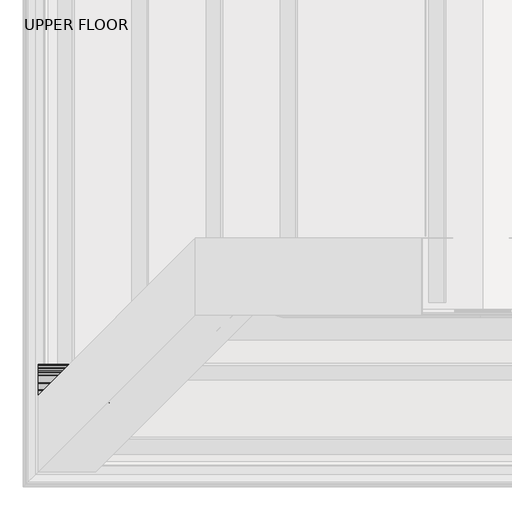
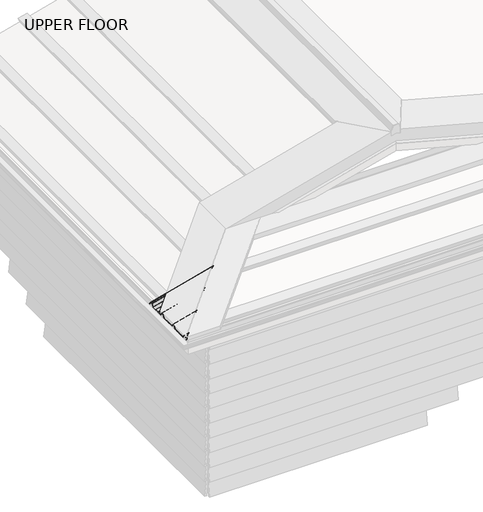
# One storey, part 2 of 8: 1 beam.
"""IFC4 building model written with IfcOpenShell, lengths in millimetres."""

from ifc_helpers import new_model, si_unit, frame, origin, place, context, project, spatial, polyline, ellipse_curve, element, save
from ifc_brep_helpers import plane_surface, cylinder_surface, revolved_surface, advanced_brep

model = new_model("IFC4")

# Units and contexts
model_context = context("Model", 3, world=origin())
ifc_project = project(units=[si_unit("LENGTHUNIT", "METRE", prefix="MILLI")], contexts=[model_context])

# Site, building, storey
site = spatial("IfcSite", under=ifc_project)
building = spatial("IfcBuilding", under=site)
storey = spatial("IfcBuildingStorey", under=building, Name="UPPER FLOOR", Elevation=2700.0)

# Beam
placement = place(None, origin())
element("IfcBeam", 1, ObjectType="3D_Metalcraft T-Rib : 3D_Metalcraft T-Rib", at=placement, inside=storey, context=model_context, shape_type="AdvancedBrep", body=[
    advanced_brep(
    [(-16365.5018007, -26637.8591199, 3290.1349919), (-16341.9197964, -26637.8591199, 3296.453771), (-16355.7286843, -26651.6680078, 3271.1807732), (-16365.5018007, -26651.6680078, 3268.5620746), (-16340.3443189, -26636.2836425, 3298.0943464), (-16365.5018007, -26636.2836425, 3291.3534195), (-16330.247122, -26626.1864455, 3302.484772), (-16365.5018007, -26626.1864455, 3293.0383093), (-16320.1499251, -26616.0892486, 3303.5054179), (-16365.5018007, -26616.0892486, 3291.3534195), (-16318.5744477, -26614.5137712, 3302.7091383), (-16365.5018007, -26614.5137712, 3290.1349919), (-16303.0681079, -26599.0074314, 3282.6392901), (-16365.5018007, -26599.0074314, 3265.9102325), (-16300.247122, -26596.1864455, 3281.5355147), (-16365.5018007, -26596.1864455, 3264.0505762), (-16258.0093834, -26553.9487069, 3292.8530827), (-16365.5018007, -26553.9487069, 3264.0505762), (-16253.8932332, -26549.8325567, 3295.7393867), (-16365.5018007, -26549.8325567, 3265.8339611), (-16216.6010109, -26512.5403344, 3305.7318075), (-16365.5018007, -26512.5403344, 3265.8339611), (-16212.4848607, -26508.4241842, 3305.0513418), (-16365.5018007, -26508.4241842, 3264.0505762), (-16170.247122, -26466.1864455, 3316.3689097), (-16365.5018007, -26466.1864455, 3264.0505762), (-16167.4261362, -26463.3654597, 3318.9844469), (-16365.5018007, -26463.3654597, 3265.9102325), (-16151.9197964, -26447.8591199, 3347.3641175), (-16365.5018007, -26447.8591199, 3290.1349919), (-16150.3443189, -26446.2836424, 3349.004693), (-16365.5018007, -26446.2836424, 3291.3534195), (-16140.247122, -26436.1864455, 3353.3951185), (-16365.5018007, -26436.1864455, 3293.0383093), (-16130.1499251, -26426.0892486, 3354.4157645), (-16365.5018007, -26426.0892486, 3291.3534195), (-16128.5744477, -26424.5137712, 3353.6194849), (-16365.5018007, -26424.5137712, 3290.1349919), (-16113.0681079, -26409.0074314, 3333.5496367), (-16365.5018007, -26409.0074314, 3265.9102325), (-16110.247122, -26406.1864455, 3332.4458613), (-16365.5018007, -26406.1864455, 3264.0505762), (-16068.0093834, -26363.9487069, 3343.7634292), (-16365.5018007, -26363.9487069, 3264.0505762), (-16063.8932331, -26359.8325567, 3346.6497332), (-16365.5018007, -26359.8325567, 3265.8339611), (-16026.6010109, -26322.5403344, 3356.6421541), (-16365.5018007, -26322.5403344, 3265.8339611), (-16022.4848607, -26318.4241842, 3355.9616883), (-16365.5018007, -26318.4241842, 3264.0505762), (-15980.247122, -26276.1864455, 3367.2792563), (-16365.5018007, -26276.1864455, 3264.0505762), (-15977.4261362, -26273.3654597, 3369.8947935), (-16365.5018007, -26273.3654597, 3265.9102325), (-15961.9197964, -26257.8591199, 3398.2744641), (-16365.5018007, -26257.8591199, 3290.1349919), (-15960.3443189, -26256.2836424, 3399.9150396), (-16365.5018007, -26256.2836424, 3291.3534195), (-15950.247122, -26246.1864455, 3404.3054651), (-16365.5018007, -26246.1864455, 3293.0383093), (-15940.1499251, -26236.0892486, 3405.3261111), (-16365.5018007, -26236.0892486, 3291.3534195), (-15938.5744477, -26234.5137712, 3404.5298314), (-16365.5018007, -26234.5137712, 3290.1349919), (-15923.0681079, -26219.0074314, 3384.4599833), (-16365.5018007, -26219.0074314, 3265.9102325), (-15920.247122, -26216.1864455, 3383.3562078), (-16365.5018007, -26216.1864455, 3264.0505762), (-15878.0093834, -26173.9487069, 3394.6737758), (-16365.5018007, -26173.9487069, 3264.0505762), (-15873.8932331, -26169.8325567, 3397.5600798), (-16365.5018007, -26169.8325567, 3265.8339611), (-15836.6010109, -26132.5403344, 3407.5525006), (-16365.5018007, -26132.5403344, 3265.8339611), (-15832.4848607, -26128.4241842, 3406.8720349), (-16365.5018007, -26128.4241842, 3264.0505762), (-15790.247122, -26086.1864455, 3418.1896028), (-16365.5018007, -26086.1864455, 3264.0505762), (-15787.4261362, -26083.3654597, 3420.80514), (-16365.5018007, -26083.3654597, 3265.9102325), (-15771.9197964, -26067.8591199, 3449.1848107), (-16365.5018007, -26067.8591199, 3290.1349919), (-15770.3443189, -26066.2836424, 3450.8253861), (-16365.5018007, -26066.2836424, 3291.3534195), (-15760.247122, -26056.1864455, 3455.2158116), (-16365.5018007, -26056.1864455, 3293.0383093), (-15750.1499251, -26046.0892486, 3456.2364576), (-16365.5018007, -26046.0892486, 3291.3534195), (-15748.5744477, -26044.5137712, 3455.440178), (-16365.5018007, -26044.5137712, 3290.1349919), (-15734.3934741, -26030.3327977, 3437.0857508), (-16365.5018007, -26030.3327977, 3267.9807843), (-15731.5724887, -26027.5118122, 3435.9819758), (-16365.5018007, -26027.5118122, 3266.1211286), (-15727.9238535, -26023.863177, 3436.9596247), (-16365.5018007, -26023.863177, 3266.1211286), (-15727.9238535, -26023.863177, 3437.9949008), (-16365.5018007, -26023.863177, 3267.1564048), (-15731.4774971, -26027.4168206, 3437.0427049), (-16365.5018007, -26027.4168206, 3267.1564048), (-15733.5685615, -26029.507885, 3437.8922113), (-16365.5018007, -26029.507885, 3268.5662102), (-15747.747122, -26043.6864455, 3456.2435153), (-16365.5018007, -26043.6864455, 3290.716648), (-15749.834592, -26045.7739155, 3457.3034089), (-16365.5018007, -26045.7739155, 3292.3358775), (-15760.247122, -26056.1864455, 3456.2510878), (-16365.5018007, -26056.1864455, 3294.0735855), (-15770.659652, -26066.5989755, 3451.7233509), (-16365.5018007, -26066.5989755, 3292.3358775), (-15772.747122, -26068.6864455, 3449.5447855), (-16365.5018007, -26068.6864455, 3290.716648), (-15788.1248128, -26084.0641363, 3421.4005681), (-16365.5018007, -26084.0641363, 3266.6928705), (-15790.3421137, -26086.2814372, 3419.1994261), (-16365.5018007, -26086.2814372, 3265.0858524), (-15832.2840478, -26128.2233713, 3407.9611187), (-16365.5018007, -26128.2233713, 3265.0858524), (-15836.4001981, -26132.3395216, 3408.6415844), (-16365.5018007, -26132.3395216, 3266.8692373), (-15874.094046, -26170.0333695, 3398.5415483), (-16365.5018007, -26170.0333695, 3266.8692373), (-15878.2101962, -26174.1495197, 3395.6552443), (-16365.5018007, -26174.1495197, 3265.0858524), (-15920.1521304, -26216.0914539, 3384.4169369), (-16365.5018007, -26216.0914539, 3265.0858524), (-15922.3694312, -26218.3087548, 3385.429831), (-16365.5018007, -26218.3087548, 3266.6928705), (-15937.747122, -26233.6864455, 3405.3331688), (-16365.5018007, -26233.6864455, 3290.716648), (-15939.834592, -26235.7739155, 3406.3930623), (-16365.5018007, -26235.7739155, 3292.3358775), (-15950.247122, -26246.1864455, 3405.3407413), (-16365.5018007, -26246.1864455, 3294.0735855), (-15960.659652, -26256.5989755, 3400.8130043), (-16365.5018007, -26256.5989755, 3292.3358775), (-15962.747122, -26258.6864455, 3398.6344389), (-16365.5018007, -26258.6864455, 3290.716648), (-15978.1248128, -26274.0641363, 3370.4902215), (-16365.5018007, -26274.0641363, 3266.6928705), (-15980.3421137, -26276.2814372, 3368.2890795), (-16365.5018007, -26276.2814372, 3265.0858524), (-16022.2840478, -26318.2233713, 3357.0507721), (-16365.5018007, -26318.2233713, 3265.0858524), (-16026.4001981, -26322.3395216, 3357.7312379), (-16365.5018007, -26322.3395216, 3266.8692373), (-16064.094046, -26360.0333695, 3347.6312018), (-16365.5018007, -26360.0333695, 3266.8692373), (-16068.2101962, -26364.1495197, 3344.7448978), (-16365.5018007, -26364.1495197, 3265.0858524), (-16110.1521304, -26406.0914539, 3333.5065904), (-16365.5018007, -26406.0914539, 3265.0858524), (-16112.3694312, -26408.3087548, 3334.5194844), (-16365.5018007, -26408.3087548, 3266.6928705), (-16127.747122, -26423.6864455, 3354.4228222), (-16365.5018007, -26423.6864455, 3290.716648), (-16129.834592, -26425.7739156, 3355.4827158), (-16365.5018007, -26425.7739156, 3292.3358775), (-16140.247122, -26436.1864455, 3354.4303947), (-16365.5018007, -26436.1864455, 3294.0735855), (-16150.659652, -26446.5989755, 3349.9026578), (-16365.5018007, -26446.5989755, 3292.3358775), (-16152.747122, -26448.6864455, 3347.7240924), (-16365.5018007, -26448.6864455, 3290.716648), (-16168.1248128, -26464.0641363, 3319.579875), (-16365.5018007, -26464.0641363, 3266.6928705), (-16170.3421137, -26466.2814372, 3317.378733), (-16365.5018007, -26466.2814372, 3265.0858524), (-16212.2840478, -26508.2233713, 3306.1404256), (-16365.5018007, -26508.2233713, 3265.0858524), (-16216.4001981, -26512.3395216, 3306.8208913), (-16365.5018007, -26512.3395216, 3266.8692373), (-16254.094046, -26550.0333695, 3296.7208552), (-16365.5018007, -26550.0333695, 3266.8692373), (-16258.2101962, -26554.1495197, 3293.8345512), (-16365.5018007, -26554.1495197, 3265.0858524), (-16300.1521304, -26596.0914539, 3282.5962438), (-16365.5018007, -26596.0914539, 3265.0858524), (-16302.3694312, -26598.3087548, 3283.6091379), (-16365.5018007, -26598.3087548, 3266.6928705), (-16317.747122, -26613.6864455, 3303.5124756), (-16365.5018007, -26613.6864455, 3290.716648), (-16319.834592, -26615.7739156, 3304.5723692), (-16365.5018007, -26615.7739156, 3292.3358775), (-16330.247122, -26626.1864455, 3303.5200482), (-16365.5018007, -26626.1864455, 3294.0735855), (-16340.659652, -26636.5989755, 3298.9923112), (-16365.5018007, -26636.5989755, 3292.3358775), (-16342.747122, -26638.6864455, 3296.8137458), (-16365.5018007, -26638.6864455, 3290.716648), (-16365.5018007, -26651.6680078, 3270.4362191), (-16355.7286843, -26651.6680078, 3273.0549178)],
    [
        (0, 1),
        (1, 2),
        (2, 3),
        (3, 0),
        (4, 1, ellipse_curve(frame((-16339.3541965, -26635.29352, 3295.286537), z_axis=(0.7071067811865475, -0.7071067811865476, 0.0), x_axis=(-0.6612248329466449, -0.6612248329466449, -0.35434932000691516)), 4.5814288, 3.1291741)),
        (0, 5, ellipse_curve(frame((-16365.5018007, -26635.29352, 3288.2803075), z_axis=(-1.0, 0.0, 0.0), x_axis=(0.0, 0.0, -1.0)), 3.2395594, 3.1291741)),
        (5, 4),
        (6, 4, ellipse_curve(frame((-16330.2530369, -26626.1923604, 3269.2512983), z_axis=(0.7071067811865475, -0.7071067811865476, 0.0), x_axis=(-0.6612248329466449, -0.6612248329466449, -0.35434932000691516)), 46.9969887, 32.0995402)),
        (5, 7, ellipse_curve(frame((-16365.5018007, -26626.1923604, 3259.8064205), z_axis=(-1.0, 0.0, 0.0), x_axis=(0.0, 0.0, -1.0)), 33.2318894, 32.0995402)),
        (7, 6),
        (8, 6, ellipse_curve(frame((-16330.2412071, -26626.1805307, 3269.254468), z_axis=(0.7071067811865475, -0.7071067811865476, 0.0), x_axis=(-0.6612248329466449, -0.6612248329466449, -0.35434932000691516)), 46.9969887, 32.0995402)),
        (7, 9, ellipse_curve(frame((-16365.5018007, -26626.1805307, 3259.8064205), z_axis=(-1.0, 0.0, 0.0), x_axis=(0.0, 0.0, -1.0)), 33.2318894, 32.0995402)),
        (9, 8),
        (10, 8, ellipse_curve(frame((-16321.1400476, -26617.0793711, 3300.1670035), z_axis=(0.7071067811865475, -0.7071067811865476, 0.0), x_axis=(-0.6612248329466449, -0.6612248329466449, -0.35434932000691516)), 4.5814288, 3.1291741)),
        (9, 11, ellipse_curve(frame((-16365.5018007, -26617.0793711, 3288.2803075), z_axis=(-1.0, 0.0, 0.0), x_axis=(0.0, 0.0, -1.0)), 3.2395594, 3.1291741)),
        (11, 10),
        (12, 10),
        (11, 13),
        (13, 12),
        (14, 12, ellipse_curve(frame((-16299.4668008, -26595.4061243, 3286.2363659), z_axis=(-0.7071067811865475, 0.7071067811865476, 0.0), x_axis=(-0.6612248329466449, -0.6612248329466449, -0.35434932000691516)), 6.4542341, 4.4083239)),
        (13, 15, ellipse_curve(frame((-16365.5018007, -26595.4061243, 3268.542341), z_axis=(1.0, 0.0, 0.0), x_axis=(0.0, 0.0, -1.0)), 4.5638327, 4.4083239)),
        (15, 14),
        (16, 14),
        (15, 17),
        (17, 16),
        (18, 16),
        (17, 19),
        (19, 18),
        (20, 18),
        (19, 21),
        (21, 20),
        (22, 20),
        (21, 23),
        (23, 22),
        (24, 22),
        (23, 25),
        (25, 24),
        (26, 24, ellipse_curve(frame((-16171.0274432, -26466.9667667, 3320.6515881), z_axis=(-0.7071067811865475, 0.7071067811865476, 0.0), x_axis=(-0.6612248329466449, -0.6612248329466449, -0.35434932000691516)), 6.4542341, 4.4083239)),
        (25, 27, ellipse_curve(frame((-16365.5018007, -26466.9667667, 3268.542341), z_axis=(1.0, 0.0, 0.0), x_axis=(0.0, 0.0, -1.0)), 4.5638327, 4.4083239)),
        (27, 26),
        (28, 26),
        (27, 29),
        (29, 28),
        (30, 28, ellipse_curve(frame((-16149.3541965, -26445.29352, 3346.1968835), z_axis=(0.7071067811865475, -0.7071067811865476, 0.0), x_axis=(-0.6612248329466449, -0.6612248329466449, -0.35434932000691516)), 4.5814288, 3.1291741)),
        (29, 31, ellipse_curve(frame((-16365.5018007, -26445.29352, 3288.2803075), z_axis=(-1.0, 0.0, 0.0), x_axis=(0.0, 0.0, -1.0)), 3.2395594, 3.1291741)),
        (31, 30),
        (32, 30, ellipse_curve(frame((-16140.2530369, -26436.1923604, 3320.1616448), z_axis=(0.7071067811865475, -0.7071067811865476, 0.0), x_axis=(-0.6612248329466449, -0.6612248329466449, -0.35434932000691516)), 46.9969887, 32.0995402)),
        (31, 33, ellipse_curve(frame((-16365.5018007, -26436.1923604, 3259.8064205), z_axis=(-1.0, 0.0, 0.0), x_axis=(0.0, 0.0, -1.0)), 33.2318894, 32.0995402)),
        (33, 32),
        (34, 32, ellipse_curve(frame((-16140.2412071, -26436.1805307, 3320.1648146), z_axis=(0.7071067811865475, -0.7071067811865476, 0.0), x_axis=(-0.6612248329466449, -0.6612248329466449, -0.35434932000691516)), 46.9969887, 32.0995402)),
        (33, 35, ellipse_curve(frame((-16365.5018007, -26436.1805307, 3259.8064205), z_axis=(-1.0, 0.0, 0.0), x_axis=(0.0, 0.0, -1.0)), 33.2318894, 32.0995402)),
        (35, 34),
        (36, 34, ellipse_curve(frame((-16131.1400476, -26427.0793711, 3351.07735), z_axis=(0.7071067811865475, -0.7071067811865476, 0.0), x_axis=(-0.6612248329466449, -0.6612248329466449, -0.35434932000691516)), 4.5814288, 3.1291741)),
        (35, 37, ellipse_curve(frame((-16365.5018007, -26427.0793711, 3288.2803075), z_axis=(-1.0, 0.0, 0.0), x_axis=(0.0, 0.0, -1.0)), 3.2395594, 3.1291741)),
        (37, 36),
        (38, 36),
        (37, 39),
        (39, 38),
        (40, 38, ellipse_curve(frame((-16109.4668008, -26405.4061243, 3337.1467125), z_axis=(-0.7071067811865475, 0.7071067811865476, 0.0), x_axis=(-0.6612248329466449, -0.6612248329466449, -0.35434932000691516)), 6.4542341, 4.4083239)),
        (39, 41, ellipse_curve(frame((-16365.5018007, -26405.4061243, 3268.542341), z_axis=(1.0, 0.0, 0.0), x_axis=(0.0, 0.0, -1.0)), 4.5638327, 4.4083239)),
        (41, 40),
        (42, 40),
        (41, 43),
        (43, 42),
        (44, 42),
        (43, 45),
        (45, 44),
        (46, 44),
        (45, 47),
        (47, 46),
        (48, 46),
        (47, 49),
        (49, 48),
        (50, 48),
        (49, 51),
        (51, 50),
        (52, 50, ellipse_curve(frame((-15981.0274432, -26276.9667667, 3371.5619346), z_axis=(-0.7071067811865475, 0.7071067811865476, 0.0), x_axis=(-0.6612248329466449, -0.6612248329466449, -0.35434932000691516)), 6.4542341, 4.4083239)),
        (51, 53, ellipse_curve(frame((-16365.5018007, -26276.9667667, 3268.542341), z_axis=(1.0, 0.0, 0.0), x_axis=(0.0, 0.0, -1.0)), 4.5638327, 4.4083239)),
        (53, 52),
        (54, 52),
        (53, 55),
        (55, 54),
        (56, 54, ellipse_curve(frame((-15959.3541965, -26255.29352, 3397.1072301), z_axis=(0.7071067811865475, -0.7071067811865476, 0.0), x_axis=(-0.6612248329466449, -0.6612248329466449, -0.35434932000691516)), 4.5814288, 3.1291741)),
        (55, 57, ellipse_curve(frame((-16365.5018007, -26255.29352, 3288.2803075), z_axis=(-1.0, 0.0, 0.0), x_axis=(0.0, 0.0, -1.0)), 3.2395594, 3.1291741)),
        (57, 56),
        (58, 56, ellipse_curve(frame((-15950.2530369, -26246.1923604, 3371.0719914), z_axis=(0.7071067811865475, -0.7071067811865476, 0.0), x_axis=(-0.6612248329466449, -0.6612248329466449, -0.35434932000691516)), 46.9969887, 32.0995402)),
        (57, 59, ellipse_curve(frame((-16365.5018007, -26246.1923604, 3259.8064205), z_axis=(-1.0, 0.0, 0.0), x_axis=(0.0, 0.0, -1.0)), 33.2318894, 32.0995402)),
        (59, 58),
        (60, 58, ellipse_curve(frame((-15950.2412071, -26246.1805306, 3371.0751612), z_axis=(0.7071067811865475, -0.7071067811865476, 0.0), x_axis=(-0.6612248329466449, -0.6612248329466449, -0.35434932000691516)), 46.9969887, 32.0995402)),
        (59, 61, ellipse_curve(frame((-16365.5018007, -26246.1805306, 3259.8064205), z_axis=(-1.0, 0.0, 0.0), x_axis=(0.0, 0.0, -1.0)), 33.2318894, 32.0995402)),
        (61, 60),
        (62, 60, ellipse_curve(frame((-15941.1400476, -26237.0793711, 3401.9876966), z_axis=(0.7071067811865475, -0.7071067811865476, 0.0), x_axis=(-0.6612248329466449, -0.6612248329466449, -0.35434932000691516)), 4.5814288, 3.1291741)),
        (61, 63, ellipse_curve(frame((-16365.5018007, -26237.0793711, 3288.2803075), z_axis=(-1.0, 0.0, 0.0), x_axis=(0.0, 0.0, -1.0)), 3.2395594, 3.1291741)),
        (63, 62),
        (64, 62),
        (63, 65),
        (65, 64),
        (66, 64, ellipse_curve(frame((-15919.4668008, -26215.4061243, 3388.057059), z_axis=(-0.7071067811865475, 0.7071067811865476, 0.0), x_axis=(-0.6612248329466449, -0.6612248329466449, -0.35434932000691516)), 6.4542341, 4.4083239)),
        (65, 67, ellipse_curve(frame((-16365.5018007, -26215.4061243, 3268.542341), z_axis=(1.0, 0.0, 0.0), x_axis=(0.0, 0.0, -1.0)), 4.5638327, 4.4083239)),
        (67, 66),
        (68, 66),
        (67, 69),
        (69, 68),
        (70, 68),
        (69, 71),
        (71, 70),
        (72, 70),
        (71, 73),
        (73, 72),
        (74, 72),
        (73, 75),
        (75, 74),
        (76, 74),
        (75, 77),
        (77, 76),
        (78, 76, ellipse_curve(frame((-15791.0274432, -26086.9667667, 3422.4722812), z_axis=(-0.7071067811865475, 0.7071067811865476, 0.0), x_axis=(-0.6612248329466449, -0.6612248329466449, -0.35434932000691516)), 6.4542341, 4.4083239)),
        (77, 79, ellipse_curve(frame((-16365.5018007, -26086.9667667, 3268.542341), z_axis=(1.0, 0.0, 0.0), x_axis=(0.0, 0.0, -1.0)), 4.5638327, 4.4083239)),
        (79, 78),
        (80, 78),
        (79, 81),
        (81, 80),
        (82, 80, ellipse_curve(frame((-15769.3541965, -26065.29352, 3448.0175767), z_axis=(0.7071067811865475, -0.7071067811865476, 0.0), x_axis=(-0.6612248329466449, -0.6612248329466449, -0.35434932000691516)), 4.5814288, 3.1291741)),
        (81, 83, ellipse_curve(frame((-16365.5018007, -26065.29352, 3288.2803075), z_axis=(-1.0, 0.0, 0.0), x_axis=(0.0, 0.0, -1.0)), 3.2395594, 3.1291741)),
        (83, 82),
        (84, 82, ellipse_curve(frame((-15760.2530369, -26056.1923604, 3421.982338), z_axis=(0.7071067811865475, -0.7071067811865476, 0.0), x_axis=(-0.6612248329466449, -0.6612248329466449, -0.35434932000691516)), 46.9969887, 32.0995402)),
        (83, 85, ellipse_curve(frame((-16365.5018007, -26056.1923604, 3259.8064205), z_axis=(-1.0, 0.0, 0.0), x_axis=(0.0, 0.0, -1.0)), 33.2318894, 32.0995402)),
        (85, 84),
        (86, 84, ellipse_curve(frame((-15760.2412071, -26056.1805306, 3421.9855077), z_axis=(0.7071067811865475, -0.7071067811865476, 0.0), x_axis=(-0.6612248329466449, -0.6612248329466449, -0.35434932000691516)), 46.9969887, 32.0995402)),
        (85, 87, ellipse_curve(frame((-16365.5018007, -26056.1805306, 3259.8064205), z_axis=(-1.0, 0.0, 0.0), x_axis=(0.0, 0.0, -1.0)), 33.2318894, 32.0995402)),
        (87, 86),
        (88, 86, ellipse_curve(frame((-15751.1400476, -26047.0793711, 3452.8980432), z_axis=(0.7071067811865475, -0.7071067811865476, 0.0), x_axis=(-0.6612248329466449, -0.6612248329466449, -0.35434932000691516)), 4.5814288, 3.1291741)),
        (87, 89, ellipse_curve(frame((-16365.5018007, -26047.0793711, 3288.2803075), z_axis=(-1.0, 0.0, 0.0), x_axis=(0.0, 0.0, -1.0)), 3.2395594, 3.1291741)),
        (89, 88),
        (90, 88),
        (89, 91),
        (91, 90),
        (92, 90, ellipse_curve(frame((-15730.7921675, -26026.731491, 3440.682827), z_axis=(-0.7071067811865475, 0.7071067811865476, 0.0), x_axis=(-0.6612248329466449, -0.6612248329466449, -0.35434932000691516)), 6.4542341, 4.4083239)),
        (91, 93, ellipse_curve(frame((-16365.5018007, -26026.731491, 3270.6128934), z_axis=(1.0, 0.0, 0.0), x_axis=(0.0, 0.0, -1.0)), 4.5638327, 4.4083239)),
        (93, 92),
        (94, 92),
        (93, 95),
        (95, 94),
        (96, 94, ellipse_curve(frame((-15727.9238535, -26023.863177, 3437.4772628), z_axis=(-0.7071067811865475, 0.7071067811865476, 0.0), x_axis=(-0.6612248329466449, -0.6612248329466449, -0.35434932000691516)), 0.7320508, 0.5)),
        (95, 97, ellipse_curve(frame((-16365.5018007, -26023.863177, 3266.6387667), z_axis=(1.0, 0.0, 0.0), x_axis=(0.0, 0.0, -1.0)), 0.5176381, 0.5)),
        (97, 96),
        (98, 96),
        (97, 99),
        (99, 98),
        (100, 98, ellipse_curve(frame((-15730.7921675, -26026.731491, 3440.682827), z_axis=(0.7071067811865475, -0.7071067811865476, 0.0), x_axis=(-0.6612248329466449, -0.6612248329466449, -0.35434932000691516)), 4.9901325, 3.4083239)),
        (99, 101, ellipse_curve(frame((-16365.5018007, -26026.731491, 3270.6128934), z_axis=(-1.0, 0.0, 0.0), x_axis=(0.0, 0.0, -1.0)), 3.5285566, 3.4083239)),
        (101, 100),
        (102, 100),
        (101, 103),
        (103, 102),
        (104, 102, ellipse_curve(frame((-15751.1400476, -26047.0793711, 3452.8980432), z_axis=(-0.7071067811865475, 0.7071067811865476, 0.0), x_axis=(-0.6612248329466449, -0.6612248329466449, -0.35434932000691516)), 6.0455304, 4.1291741)),
        (103, 105, ellipse_curve(frame((-16365.5018007, -26047.0793711, 3288.2803075), z_axis=(1.0, 0.0, 0.0), x_axis=(0.0, 0.0, -1.0)), 4.2748356, 4.1291741)),
        (105, 104),
        (106, 104, ellipse_curve(frame((-15760.2412071, -26056.1805306, 3421.9855077), z_axis=(-0.7071067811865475, 0.7071067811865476, 0.0), x_axis=(-0.6612248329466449, -0.6612248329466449, -0.35434932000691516)), 48.4610903, 33.0995402)),
        (105, 107, ellipse_curve(frame((-16365.5018007, -26056.1805306, 3259.8064205), z_axis=(1.0, 0.0, 0.0), x_axis=(0.0, 0.0, -1.0)), 34.2671656, 33.0995402)),
        (107, 106),
        (108, 106, ellipse_curve(frame((-15760.2530369, -26056.1923604, 3421.982338), z_axis=(-0.7071067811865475, 0.7071067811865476, 0.0), x_axis=(-0.6612248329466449, -0.6612248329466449, -0.35434932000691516)), 48.4610903, 33.0995402)),
        (107, 109, ellipse_curve(frame((-16365.5018007, -26056.1923604, 3259.8064205), z_axis=(1.0, 0.0, 0.0), x_axis=(0.0, 0.0, -1.0)), 34.2671656, 33.0995402)),
        (109, 108),
        (110, 108, ellipse_curve(frame((-15769.3541965, -26065.29352, 3448.0175767), z_axis=(-0.7071067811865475, 0.7071067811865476, 0.0), x_axis=(-0.6612248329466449, -0.6612248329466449, -0.35434932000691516)), 6.0455304, 4.1291741)),
        (109, 111, ellipse_curve(frame((-16365.5018007, -26065.29352, 3288.2803075), z_axis=(1.0, 0.0, 0.0), x_axis=(0.0, 0.0, -1.0)), 4.2748356, 4.1291741)),
        (111, 110),
        (112, 110),
        (111, 113),
        (113, 112),
        (114, 112, ellipse_curve(frame((-15791.0274432, -26086.9667667, 3422.4722812), z_axis=(0.7071067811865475, -0.7071067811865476, 0.0), x_axis=(-0.6612248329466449, -0.6612248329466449, -0.35434932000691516)), 4.9901325, 3.4083239)),
        (113, 115, ellipse_curve(frame((-16365.5018007, -26086.9667667, 3268.542341), z_axis=(-1.0, 0.0, 0.0), x_axis=(0.0, 0.0, -1.0)), 3.5285566, 3.4083239)),
        (115, 114),
        (116, 114),
        (115, 117),
        (117, 116),
        (118, 116),
        (117, 119),
        (119, 118),
        (120, 118),
        (119, 121),
        (121, 120),
        (122, 120),
        (121, 123),
        (123, 122),
        (124, 122),
        (123, 125),
        (125, 124),
        (126, 124, ellipse_curve(frame((-15919.4668008, -26215.4061243, 3388.057059), z_axis=(0.7071067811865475, -0.7071067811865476, 0.0), x_axis=(-0.6612248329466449, -0.6612248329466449, -0.35434932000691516)), 4.9901325, 3.4083239)),
        (125, 127, ellipse_curve(frame((-16365.5018007, -26215.4061243, 3268.542341), z_axis=(-1.0, 0.0, 0.0), x_axis=(0.0, 0.0, -1.0)), 3.5285566, 3.4083239)),
        (127, 126),
        (128, 126),
        (127, 129),
        (129, 128),
        (130, 128, ellipse_curve(frame((-15941.1400476, -26237.0793711, 3401.9876966), z_axis=(-0.7071067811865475, 0.7071067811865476, 0.0), x_axis=(-0.6612248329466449, -0.6612248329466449, -0.35434932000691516)), 6.0455304, 4.1291741)),
        (129, 131, ellipse_curve(frame((-16365.5018007, -26237.0793711, 3288.2803075), z_axis=(1.0, 0.0, 0.0), x_axis=(0.0, 0.0, -1.0)), 4.2748356, 4.1291741)),
        (131, 130),
        (132, 130, ellipse_curve(frame((-15950.2412071, -26246.1805306, 3371.0751612), z_axis=(-0.7071067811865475, 0.7071067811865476, 0.0), x_axis=(-0.6612248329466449, -0.6612248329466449, -0.35434932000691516)), 48.4610903, 33.0995402)),
        (131, 133, ellipse_curve(frame((-16365.5018007, -26246.1805306, 3259.8064205), z_axis=(1.0, 0.0, 0.0), x_axis=(0.0, 0.0, -1.0)), 34.2671656, 33.0995402)),
        (133, 132),
        (134, 132, ellipse_curve(frame((-15950.2530369, -26246.1923604, 3371.0719914), z_axis=(-0.7071067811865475, 0.7071067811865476, 0.0), x_axis=(-0.6612248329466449, -0.6612248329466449, -0.35434932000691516)), 48.4610903, 33.0995402)),
        (133, 135, ellipse_curve(frame((-16365.5018007, -26246.1923604, 3259.8064205), z_axis=(1.0, 0.0, 0.0), x_axis=(0.0, 0.0, -1.0)), 34.2671656, 33.0995402)),
        (135, 134),
        (136, 134, ellipse_curve(frame((-15959.3541965, -26255.29352, 3397.1072301), z_axis=(-0.7071067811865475, 0.7071067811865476, 0.0), x_axis=(-0.6612248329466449, -0.6612248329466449, -0.35434932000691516)), 6.0455304, 4.1291741)),
        (135, 137, ellipse_curve(frame((-16365.5018007, -26255.29352, 3288.2803075), z_axis=(1.0, 0.0, 0.0), x_axis=(0.0, 0.0, -1.0)), 4.2748356, 4.1291741)),
        (137, 136),
        (138, 136),
        (137, 139),
        (139, 138),
        (140, 138, ellipse_curve(frame((-15981.0274432, -26276.9667667, 3371.5619346), z_axis=(0.7071067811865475, -0.7071067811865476, 0.0), x_axis=(-0.6612248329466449, -0.6612248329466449, -0.35434932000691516)), 4.9901325, 3.4083239)),
        (139, 141, ellipse_curve(frame((-16365.5018007, -26276.9667667, 3268.542341), z_axis=(-1.0, 0.0, 0.0), x_axis=(0.0, 0.0, -1.0)), 3.5285566, 3.4083239)),
        (141, 140),
        (142, 140),
        (141, 143),
        (143, 142),
        (144, 142),
        (143, 145),
        (145, 144),
        (146, 144),
        (145, 147),
        (147, 146),
        (148, 146),
        (147, 149),
        (149, 148),
        (150, 148),
        (149, 151),
        (151, 150),
        (152, 150, ellipse_curve(frame((-16109.4668008, -26405.4061243, 3337.1467125), z_axis=(0.7071067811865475, -0.7071067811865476, 0.0), x_axis=(-0.6612248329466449, -0.6612248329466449, -0.35434932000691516)), 4.9901325, 3.4083239)),
        (151, 153, ellipse_curve(frame((-16365.5018007, -26405.4061243, 3268.542341), z_axis=(-1.0, 0.0, 0.0), x_axis=(0.0, 0.0, -1.0)), 3.5285566, 3.4083239)),
        (153, 152),
        (154, 152),
        (153, 155),
        (155, 154),
        (156, 154, ellipse_curve(frame((-16131.1400476, -26427.0793711, 3351.07735), z_axis=(-0.7071067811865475, 0.7071067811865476, 0.0), x_axis=(-0.6612248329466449, -0.6612248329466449, -0.35434932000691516)), 6.0455304, 4.1291741)),
        (155, 157, ellipse_curve(frame((-16365.5018007, -26427.0793711, 3288.2803075), z_axis=(1.0, 0.0, 0.0), x_axis=(0.0, 0.0, -1.0)), 4.2748356, 4.1291741)),
        (157, 156),
        (158, 156, ellipse_curve(frame((-16140.2412071, -26436.1805307, 3320.1648146), z_axis=(-0.7071067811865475, 0.7071067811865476, 0.0), x_axis=(-0.6612248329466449, -0.6612248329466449, -0.35434932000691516)), 48.4610903, 33.0995402)),
        (157, 159, ellipse_curve(frame((-16365.5018007, -26436.1805307, 3259.8064205), z_axis=(1.0, 0.0, 0.0), x_axis=(0.0, 0.0, -1.0)), 34.2671656, 33.0995402)),
        (159, 158),
        (160, 158, ellipse_curve(frame((-16140.2530369, -26436.1923604, 3320.1616448), z_axis=(-0.7071067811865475, 0.7071067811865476, 0.0), x_axis=(-0.6612248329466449, -0.6612248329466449, -0.35434932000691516)), 48.4610903, 33.0995402)),
        (159, 161, ellipse_curve(frame((-16365.5018007, -26436.1923604, 3259.8064205), z_axis=(1.0, 0.0, 0.0), x_axis=(0.0, 0.0, -1.0)), 34.2671656, 33.0995402)),
        (161, 160),
        (162, 160, ellipse_curve(frame((-16149.3541965, -26445.29352, 3346.1968835), z_axis=(-0.7071067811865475, 0.7071067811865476, 0.0), x_axis=(-0.6612248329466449, -0.6612248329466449, -0.35434932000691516)), 6.0455304, 4.1291741)),
        (161, 163, ellipse_curve(frame((-16365.5018007, -26445.29352, 3288.2803075), z_axis=(1.0, 0.0, 0.0), x_axis=(0.0, 0.0, -1.0)), 4.2748356, 4.1291741)),
        (163, 162),
        (164, 162),
        (163, 165),
        (165, 164),
        (166, 164, ellipse_curve(frame((-16171.0274432, -26466.9667667, 3320.6515881), z_axis=(0.7071067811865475, -0.7071067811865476, 0.0), x_axis=(-0.6612248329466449, -0.6612248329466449, -0.35434932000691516)), 4.9901325, 3.4083239)),
        (165, 167, ellipse_curve(frame((-16365.5018007, -26466.9667667, 3268.542341), z_axis=(-1.0, 0.0, 0.0), x_axis=(0.0, 0.0, -1.0)), 3.5285566, 3.4083239)),
        (167, 166),
        (168, 166),
        (167, 169),
        (169, 168),
        (170, 168),
        (169, 171),
        (171, 170),
        (172, 170),
        (171, 173),
        (173, 172),
        (174, 172),
        (173, 175),
        (175, 174),
        (176, 174),
        (175, 177),
        (177, 176),
        (178, 176, ellipse_curve(frame((-16299.4668008, -26595.4061243, 3286.2363659), z_axis=(0.7071067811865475, -0.7071067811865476, 0.0), x_axis=(-0.6612248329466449, -0.6612248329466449, -0.35434932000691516)), 4.9901325, 3.4083239)),
        (177, 179, ellipse_curve(frame((-16365.5018007, -26595.4061243, 3268.542341), z_axis=(-1.0, 0.0, 0.0), x_axis=(0.0, 0.0, -1.0)), 3.5285566, 3.4083239)),
        (179, 178),
        (180, 178),
        (179, 181),
        (181, 180),
        (182, 180, ellipse_curve(frame((-16321.1400476, -26617.0793711, 3300.1670035), z_axis=(-0.7071067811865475, 0.7071067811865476, 0.0), x_axis=(-0.6612248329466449, -0.6612248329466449, -0.35434932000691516)), 6.0455304, 4.1291741)),
        (181, 183, ellipse_curve(frame((-16365.5018007, -26617.0793711, 3288.2803075), z_axis=(1.0, 0.0, 0.0), x_axis=(0.0, 0.0, -1.0)), 4.2748356, 4.1291741)),
        (183, 182),
        (184, 182, ellipse_curve(frame((-16330.2412071, -26626.1805307, 3269.254468), z_axis=(-0.7071067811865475, 0.7071067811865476, 0.0), x_axis=(-0.6612248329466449, -0.6612248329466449, -0.35434932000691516)), 48.4610903, 33.0995402)),
        (183, 185, ellipse_curve(frame((-16365.5018007, -26626.1805307, 3259.8064205), z_axis=(1.0, 0.0, 0.0), x_axis=(0.0, 0.0, -1.0)), 34.2671656, 33.0995402)),
        (185, 184),
        (186, 184, ellipse_curve(frame((-16330.2530369, -26626.1923604, 3269.2512983), z_axis=(-0.7071067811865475, 0.7071067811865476, 0.0), x_axis=(-0.6612248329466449, -0.6612248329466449, -0.35434932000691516)), 48.4610903, 33.0995402)),
        (185, 187, ellipse_curve(frame((-16365.5018007, -26626.1923604, 3259.8064205), z_axis=(1.0, 0.0, 0.0), x_axis=(0.0, 0.0, -1.0)), 34.2671656, 33.0995402)),
        (187, 186),
        (188, 186, ellipse_curve(frame((-16339.3541965, -26635.29352, 3295.286537), z_axis=(-0.7071067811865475, 0.7071067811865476, 0.0), x_axis=(-0.6612248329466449, -0.6612248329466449, -0.35434932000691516)), 6.0455304, 4.1291741)),
        (187, 189, ellipse_curve(frame((-16365.5018007, -26635.29352, 3288.2803075), z_axis=(1.0, 0.0, 0.0), x_axis=(0.0, 0.0, -1.0)), 4.2748356, 4.1291741)),
        (189, 188),
        (189, 190),
        (190, 191),
        (191, 188),
        (191, 2),
        (3, 190),
    ],
    [
        plane_surface(frame((-15263.0597072, -26645.6122898, 3573.4210809), z_axis=(0.14297146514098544, 0.833579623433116, -0.53357677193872), x_axis=(-0.215746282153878, 0.5523993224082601, 0.8051760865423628))),
        revolved_surface(polyline([(-16366.975716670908, -26633.502032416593, 3290.5414773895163), (-16336.785939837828, -26633.502032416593, 3298.630803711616)]), (-15265.624131, -26635.29352, 3582.9916409), (-0.9659258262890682, 0.0, -0.25881904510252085)),
        revolved_surface(polyline([(-16376.421589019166, -26595.720299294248, 3267.3277359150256), (-16299.707607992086, -26595.720299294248, 3287.883185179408)]), (-15258.5056592, -26626.1923604, 3556.4251426), (-0.9659258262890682, 0.0, -0.25881904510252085)),
        revolved_surface(polyline([(-16373.811303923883, -26594.080991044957, 3257.5860193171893), (-16297.085493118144, -26594.080991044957, 3278.1446383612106)]), (-15258.5056592, -26626.1805307, 3556.4251426), (-0.9659258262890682, 0.0, -0.25881904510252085)),
        revolved_surface(polyline([(-16366.055428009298, -26614.110972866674, 3287.1069133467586), (-16317.651502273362, -26614.110972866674, 3300.0767061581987)]), (-15265.624131, -26617.0793711, 3582.9916409), (-0.9659258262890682, 0.0, -0.25881904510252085)),
        plane_surface(frame((-15263.0597072, -26606.7606013, 3573.4210809), z_axis=(0.14297146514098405, -0.8335796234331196, -0.5335767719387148), x_axis=(0.21574628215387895, 0.5523993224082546, -0.8051760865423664))),
        cylinder_surface(frame((-15260.6896394, -26595.4061243, 3564.5758675), z_axis=(-0.9659258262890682, 0.0, -0.25881904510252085), x_axis=(0.21143792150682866, 0.5767320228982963, -0.7890970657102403)), 4.4083239),
        plane_surface(frame((-15259.5666982, -26575.0675762, 3560.3849939), z_axis=(0.2588190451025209, 0.0, -0.9659258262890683), x_axis=(0.0, 1.0, 0.0))),
        plane_surface(frame((-15259.7896213, -26551.8906318, 3561.2169542), z_axis=(0.238754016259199, 0.38605758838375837, -0.8910421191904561), x_axis=(-0.0999190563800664, 0.9224746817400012, 0.3729029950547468))),
        plane_surface(frame((-15260.0125444, -26531.1864455, 3562.0489146), z_axis=(0.2588190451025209, 0.0, -0.9659258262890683), x_axis=(0.0, 1.0, 0.0))),
        plane_surface(frame((-15259.7896213, -26510.4822593, 3561.2169542), z_axis=(0.23875401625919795, -0.38605758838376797, -0.8910421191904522), x_axis=(0.09991905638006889, 0.9224746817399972, -0.37290299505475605))),
        plane_surface(frame((-15259.5666982, -26487.3053149, 3560.3849939), z_axis=(0.2588190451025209, 0.0, -0.9659258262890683), x_axis=(0.0, 1.0, 0.0))),
        cylinder_surface(frame((-15260.6896394, -26466.9667667, 3564.5758675), z_axis=(-0.9659258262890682, 0.0, -0.25881904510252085), x_axis=(-0.04581378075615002, 0.9842088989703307, 0.17097935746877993)), 4.4083239),
        plane_surface(frame((-15263.0597072, -26455.6122898, 3573.4210809), z_axis=(0.14297146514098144, 0.8335796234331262, -0.5335767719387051), x_axis=(-0.21574628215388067, 0.5523993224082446, 0.8051760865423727))),
        revolved_surface(polyline([(-16366.975716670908, -26443.502032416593, 3290.541477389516), (-16146.785939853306, -26443.502032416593, 3349.5411502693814)]), (-15265.624131, -26445.29352, 3582.9916409), (-0.9659258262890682, 0.0, -0.25881904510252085)),
        revolved_surface(polyline([(-16376.421589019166, -26405.720299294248, 3267.327735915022), (-16109.707608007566, -26405.720299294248, 3338.7935317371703)]), (-15258.5056592, -26436.1923604, 3556.4251426), (-0.9659258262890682, 0.0, -0.25881904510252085)),
        revolved_surface(polyline([(-16373.811303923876, -26404.080991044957, 3257.5860193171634), (-16107.085493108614, -26404.080991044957, 3329.054984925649)]), (-15258.5056592, -26436.1805307, 3556.4251426), (-0.9659258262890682, 0.0, -0.25881904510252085)),
        revolved_surface(polyline([(-16366.055428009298, -26424.110972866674, 3287.1069133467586), (-16127.65150228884, -26424.110972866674, 3350.9870527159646)]), (-15265.624131, -26427.0793711, 3582.9916409), (-0.9659258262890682, 0.0, -0.25881904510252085)),
        plane_surface(frame((-15263.0597072, -26416.7606013, 3573.4210809), z_axis=(0.1429714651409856, -0.8335796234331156, -0.5335767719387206), x_axis=(0.21574628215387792, 0.5523993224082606, -0.8051760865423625))),
        cylinder_surface(frame((-15260.6896394, -26405.4061243, 3564.5758675), z_axis=(-0.9659258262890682, 0.0, -0.25881904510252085), x_axis=(0.21143792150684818, 0.5767320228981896, -0.7890970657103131)), 4.4083239),
        plane_surface(frame((-15259.5666982, -26385.0675762, 3560.3849939), z_axis=(0.2588190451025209, 0.0, -0.9659258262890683), x_axis=(0.0, 1.0, 0.0))),
        plane_surface(frame((-15259.7896213, -26361.8906318, 3561.2169542), z_axis=(0.23875401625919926, 0.3860575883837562, -0.891042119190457), x_axis=(-0.09991905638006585, 0.9224746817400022, 0.3729029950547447))),
        plane_surface(frame((-15260.0125444, -26341.1864455, 3562.0489146), z_axis=(0.2588190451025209, 0.0, -0.9659258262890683), x_axis=(0.0, 1.0, 0.0))),
        plane_surface(frame((-15259.7896213, -26320.4822593, 3561.2169542), z_axis=(0.23875401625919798, -0.38605758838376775, -0.8910421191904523), x_axis=(0.09991905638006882, 0.9224746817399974, -0.3729029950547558))),
        plane_surface(frame((-15259.5666982, -26297.3053149, 3560.3849939), z_axis=(0.2588190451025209, 0.0, -0.9659258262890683), x_axis=(0.0, 1.0, 0.0))),
        cylinder_surface(frame((-15260.6896394, -26276.9667667, 3564.5758675), z_axis=(-0.9659258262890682, 0.0, -0.25881904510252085), x_axis=(-0.045813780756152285, 0.984208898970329, 0.17097935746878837)), 4.4083239),
        plane_surface(frame((-15263.0597072, -26265.6122898, 3573.4210809), z_axis=(0.142971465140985, 0.8335796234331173, -0.5335767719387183), x_axis=(-0.21574628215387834, 0.5523993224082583, 0.8051760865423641))),
        revolved_surface(polyline([(-16366.975716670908, -26253.502032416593, 3290.541477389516), (-15956.785939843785, -26253.502032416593, 3400.451496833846)]), (-15265.624131, -26255.29352, 3582.9916409), (-0.9659258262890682, 0.0, -0.25881904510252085)),
        revolved_surface(polyline([(-16376.421589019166, -26215.720299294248, 3267.3277359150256), (-15919.707607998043, -26215.720299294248, 3389.7038783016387)]), (-15258.5056592, -26246.1923604, 3556.4251426), (-0.9659258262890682, 0.0, -0.25881904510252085)),
        revolved_surface(polyline([(-16373.811303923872, -26214.080990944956, 3257.586019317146), (-15917.08549309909, -26214.080990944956, 3379.9653314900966)]), (-15258.5056592, -26246.1805306, 3556.4251426), (-0.9659258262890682, 0.0, -0.25881904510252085)),
        revolved_surface(polyline([(-16366.055428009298, -26234.110972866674, 3287.1069133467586), (-15937.65150227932, -26234.110972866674, 3401.8973992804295)]), (-15265.624131, -26237.0793711, 3582.9916409), (-0.9659258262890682, 0.0, -0.25881904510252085)),
        plane_surface(frame((-15263.0597072, -26226.7606013, 3573.4210809), z_axis=(0.14297146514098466, -0.8335796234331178, -0.5335767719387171), x_axis=(0.21574628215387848, 0.5523993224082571, -0.8051760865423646))),
        cylinder_surface(frame((-15260.6896394, -26215.4061243, 3564.5758675), z_axis=(-0.9659258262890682, 0.0, -0.25881904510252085), x_axis=(0.2114379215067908, 0.5767320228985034, -0.7890970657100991)), 4.4083239),
        plane_surface(frame((-15259.5666982, -26195.0675762, 3560.3849939), z_axis=(0.2588190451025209, 0.0, -0.9659258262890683), x_axis=(0.0, 1.0, 0.0))),
        plane_surface(frame((-15259.7896213, -26171.8906318, 3561.2169542), z_axis=(0.23875401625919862, 0.3860575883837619, -0.8910421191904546), x_axis=(-0.09991905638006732, 0.9224746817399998, 0.3729029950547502))),
        plane_surface(frame((-15260.0125444, -26151.1864455, 3562.0489146), z_axis=(0.2588190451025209, 0.0, -0.9659258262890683), x_axis=(0.0, 1.0, 0.0))),
        plane_surface(frame((-15259.7896213, -26130.4822593, 3561.2169542), z_axis=(0.23875401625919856, -0.38605758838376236, -0.8910421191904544), x_axis=(0.09991905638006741, 0.9224746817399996, -0.3729029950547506))),
        plane_surface(frame((-15259.5666982, -26107.3053149, 3560.3849939), z_axis=(0.2588190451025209, 0.0, -0.9659258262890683), x_axis=(0.0, 1.0, 0.0))),
        cylinder_surface(frame((-15260.6896394, -26086.9667667, 3564.5758675), z_axis=(-0.9659258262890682, 0.0, -0.25881904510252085), x_axis=(-0.04581378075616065, 0.9842088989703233, 0.1709793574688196)), 4.4083239),
        plane_surface(frame((-15263.0597072, -26075.6122898, 3573.4210809), z_axis=(0.142971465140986, 0.8335796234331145, -0.5335767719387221), x_axis=(-0.21574628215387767, 0.5523993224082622, 0.8051760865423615))),
        revolved_surface(polyline([(-16366.975716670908, -26063.502032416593, 3290.541477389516), (-15766.785939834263, -26063.502032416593, 3451.3618433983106)]), (-15265.624131, -26065.29352, 3582.9916409), (-0.9659258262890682, 0.0, -0.25881904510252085)),
        revolved_surface(polyline([(-16376.421589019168, -26025.72029929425, 3267.3277359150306), (-15729.707607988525, -26025.72029929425, 3440.614224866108)]), (-15258.5056592, -26056.1923604, 3556.4251426), (-0.9659258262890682, 0.0, -0.25881904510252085)),
        revolved_surface(polyline([(-16373.81130392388, -26024.080990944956, 3257.5860193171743), (-15727.085493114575, -26024.080990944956, 3430.8756780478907)]), (-15258.5056592, -26056.1805306, 3556.4251426), (-0.9659258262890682, 0.0, -0.25881904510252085)),
        revolved_surface(polyline([(-16366.055428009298, -26044.110972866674, 3287.1069133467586), (-15747.651502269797, -26044.110972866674, 3452.807745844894)]), (-15265.624131, -26047.0793711, 3582.9916409), (-0.9659258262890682, 0.0, -0.25881904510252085)),
        plane_surface(frame((-15263.3185261, -26037.4232844, 3574.3870065), z_axis=(0.14297146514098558, -0.8335796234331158, -0.5335767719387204), x_axis=(0.21574628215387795, 0.5523993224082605, -0.8051760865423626))),
        cylinder_surface(frame((-15261.2072774, -26026.731491, 3566.5077191), z_axis=(-0.9659258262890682, 0.0, -0.25881904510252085), x_axis=(0.21143789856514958, 0.576732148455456, -0.7890969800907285)), 4.4083239),
        plane_surface(frame((-15260.0843362, -26025.6874946, 3562.3168455), z_axis=(0.2588190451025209, 0.0, -0.9659258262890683), x_axis=(0.0, 1.0, 0.0))),
        cylinder_surface(frame((-15260.2137458, -26023.863177, 3562.7998084), z_axis=(-0.9659258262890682, 0.0, -0.25881904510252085), x_axis=(0.0, 1.0, 0.0)), 0.5),
        plane_surface(frame((-15260.3431553, -26025.6399988, 3563.2827713), z_axis=(-0.2588190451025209, 0.0, 0.9659258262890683), x_axis=(0.0, -1.0, 0.0))),
        revolved_surface(polyline([(-16366.561316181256, -26030.070202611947, 3271.038502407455), (-15727.448913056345, -26030.070202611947, 3442.288154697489)]), (-15261.2072774, -26026.731491, 3566.5077191), (-0.9659258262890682, 0.0, -0.25881904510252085)),
        plane_surface(frame((-15263.4644114, -26036.5971653, 3574.9314576), z_axis=(-0.14297146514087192, 0.8335796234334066, 0.5335767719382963), x_axis=(-0.21574628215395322, -0.5523993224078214, 0.8051760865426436))),
        cylinder_surface(frame((-15265.624131, -26047.0793711, 3582.9916409), z_axis=(-0.9659258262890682, 0.0, -0.25881904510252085), x_axis=(-0.21267055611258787, -0.5699261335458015, 0.7936973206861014)), 4.1291741),
        cylinder_surface(frame((-15258.5056592, -26056.1805306, 3556.4251426), z_axis=(-0.9659258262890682, 0.0, -0.25881904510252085), x_axis=(-0.08137364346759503, -0.9492894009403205, 0.3036905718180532)), 33.0995402),
        cylinder_surface(frame((-15258.5056592, -26056.1923604, 3556.4251426), z_axis=(-0.9659258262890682, 0.0, -0.25881904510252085), x_axis=(-4.6250931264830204e-05, -0.999999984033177, 0.00017261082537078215)), 33.0995402),
        cylinder_surface(frame((-15265.624131, -26065.29352, 3582.9916409), z_axis=(-0.9659258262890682, 0.0, -0.25881904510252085), x_axis=(0.08182671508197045, -0.9487078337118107, -0.30538145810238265)), 4.1291741),
        plane_surface(frame((-15263.2302439, -26076.3752909, 3574.0575327), z_axis=(-0.14297146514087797, -0.8335796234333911, 0.533576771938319), x_axis=(0.21574628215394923, -0.5523993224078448, -0.8051760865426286))),
        revolved_surface(polyline([(-16365.632683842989, -26088.753218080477, 3265.5022469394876), (-15786.755556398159, -26088.753218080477, 3420.6119057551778)]), (-15260.6896394, -26086.9667667, 3564.5758675), (-0.9659258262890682, 0.0, -0.25881904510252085)),
        plane_surface(frame((-15259.8255172, -26107.2524043, 3561.3509197), z_axis=(-0.2588190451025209, 0.0, 0.9659258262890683), x_axis=(0.0, -1.0, 0.0))),
        plane_surface(frame((-15260.0484403, -26130.2814465, 3562.18288), z_axis=(-0.23875401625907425, 0.38605758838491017, 0.8910421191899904), x_axis=(-0.09991905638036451, -0.9224746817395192, 0.37290299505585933))),
        plane_surface(frame((-15260.2713634, -26151.1864455, 3563.0148404), z_axis=(-0.2588190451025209, 0.0, 0.9659258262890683), x_axis=(0.0, -1.0, 0.0))),
        plane_surface(frame((-15260.0484403, -26172.0914446, 3562.18288), z_axis=(-0.23875401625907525, -0.3860575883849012, 0.8910421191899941), x_axis=(0.09991905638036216, -0.9224746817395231, -0.3729029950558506))),
        plane_surface(frame((-15259.8255172, -26195.1204868, 3561.3509197), z_axis=(-0.2588190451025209, 0.0, 0.9659258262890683), x_axis=(0.0, -1.0, 0.0))),
        revolved_surface(polyline([(-16366.56131621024, -26218.744835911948, 3268.9679501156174), (-15916.123546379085, -26218.744835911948, 3389.662386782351)]), (-15260.6896394, -26215.4061243, 3564.5758675), (-0.9659258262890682, 0.0, -0.25881904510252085)),
        plane_surface(frame((-15263.2302439, -26225.9976001, 3574.0575327), z_axis=(-0.14297146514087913, 0.8335796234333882, 0.5335767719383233), x_axis=(-0.21574628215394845, -0.5523993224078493, 0.8051760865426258))),
        cylinder_surface(frame((-15265.624131, -26237.0793711, 3582.9916409), z_axis=(-0.9659258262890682, 0.0, -0.25881904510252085), x_axis=(-0.21267055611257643, -0.5699261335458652, 0.7936973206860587)), 4.1291741),
        cylinder_surface(frame((-15258.5056592, -26246.1805306, 3556.4251426), z_axis=(-0.9659258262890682, 0.0, -0.25881904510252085), x_axis=(-0.08137364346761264, -0.949289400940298, 0.3036905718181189)), 33.0995402),
        cylinder_surface(frame((-15258.5056592, -26246.1923604, 3556.4251426), z_axis=(-0.9659258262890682, 0.0, -0.25881904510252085), x_axis=(-4.6250931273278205e-05, -0.999999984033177, 0.0001726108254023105)), 33.0995402),
        cylinder_surface(frame((-15265.624131, -26255.29352, 3582.9916409), z_axis=(-0.9659258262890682, 0.0, -0.25881904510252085), x_axis=(0.08182671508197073, -0.9487078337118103, -0.3053814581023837)), 4.1291741),
        plane_surface(frame((-15263.2302439, -26266.3752909, 3574.0575327), z_axis=(-0.14297146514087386, -0.8335796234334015, 0.5335767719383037), x_axis=(0.21574628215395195, -0.552399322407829, -0.8051760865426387))),
        revolved_surface(polyline([(-16365.632683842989, -26278.753218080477, 3265.5022469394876), (-15976.75555640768, -26278.753218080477, 3369.7015591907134)]), (-15260.6896394, -26276.9667667, 3564.5758675), (-0.9659258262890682, 0.0, -0.25881904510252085)),
        plane_surface(frame((-15259.8255172, -26297.2524043, 3561.3509197), z_axis=(-0.2588190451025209, 0.0, 0.9659258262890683), x_axis=(0.0, -1.0, 0.0))),
        plane_surface(frame((-15260.0484403, -26320.2814465, 3562.18288), z_axis=(-0.23875401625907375, 0.3860575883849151, 0.8910421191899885), x_axis=(-0.09991905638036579, -0.9224746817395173, 0.3729029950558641))),
        plane_surface(frame((-15260.2713634, -26341.1864455, 3563.0148404), z_axis=(-0.2588190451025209, 0.0, 0.9659258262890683), x_axis=(0.0, -1.0, 0.0))),
        plane_surface(frame((-15260.0484403, -26362.0914446, 3562.18288), z_axis=(-0.238754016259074, -0.3860575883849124, 0.8910421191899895), x_axis=(0.09991905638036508, -0.9224746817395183, -0.3729029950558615))),
        plane_surface(frame((-15259.8255172, -26385.1204868, 3561.3509197), z_axis=(-0.2588190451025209, 0.0, 0.9659258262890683), x_axis=(0.0, -1.0, 0.0))),
        revolved_surface(polyline([(-16366.56131621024, -26408.744835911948, 3268.9679501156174), (-16106.123546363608, -26408.744835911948, 3338.752040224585)]), (-15260.6896394, -26405.4061243, 3564.5758675), (-0.9659258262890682, 0.0, -0.25881904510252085)),
        plane_surface(frame((-15263.2302439, -26415.9976001, 3574.0575327), z_axis=(-0.14297146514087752, 0.8335796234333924, 0.5335767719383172), x_axis=(-0.21574628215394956, -0.5523993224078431, 0.8051760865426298))),
        cylinder_surface(frame((-15265.624131, -26427.0793711, 3582.9916409), z_axis=(-0.9659258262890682, 0.0, -0.25881904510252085), x_axis=(-0.21267055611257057, -0.5699261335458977, 0.7936973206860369)), 4.1291741),
        cylinder_surface(frame((-15258.5056592, -26436.1805307, 3556.4251426), z_axis=(-0.9659258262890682, 0.0, -0.25881904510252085), x_axis=(-0.08137364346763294, -0.949289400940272, 0.3036905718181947)), 33.0995402),
        cylinder_surface(frame((-15258.5056592, -26436.1923604, 3556.4251426), z_axis=(-0.9659258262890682, 0.0, -0.25881904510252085), x_axis=(-4.625093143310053e-05, -0.9999999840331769, 0.00017261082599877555)), 33.0995402),
        cylinder_surface(frame((-15265.624131, -26445.29352, 3582.9916409), z_axis=(-0.9659258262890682, 0.0, -0.25881904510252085), x_axis=(0.08182671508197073, -0.9487078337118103, -0.3053814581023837)), 4.1291741),
        plane_surface(frame((-15263.2302439, -26456.3752909, 3574.0575327), z_axis=(-0.14297146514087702, -0.8335796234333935, 0.5335767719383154), x_axis=(0.21574628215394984, -0.5523993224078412, -0.805176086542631))),
        revolved_surface(polyline([(-16365.632683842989, -26468.753218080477, 3265.5022469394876), (-16166.755556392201, -26468.753218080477, 3318.7912126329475)]), (-15260.6896394, -26466.9667667, 3564.5758675), (-0.9659258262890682, 0.0, -0.25881904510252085)),
        plane_surface(frame((-15259.8255172, -26487.2524043, 3561.3509197), z_axis=(-0.2588190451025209, 0.0, 0.9659258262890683), x_axis=(0.0, -1.0, 0.0))),
        plane_surface(frame((-15260.0484403, -26510.2814465, 3562.18288), z_axis=(-0.23875401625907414, 0.386057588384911, 0.8910421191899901), x_axis=(-0.0999190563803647, -0.9224746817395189, 0.3729029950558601))),
        plane_surface(frame((-15260.2713634, -26531.1864455, 3563.0148404), z_axis=(-0.2588190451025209, 0.0, 0.9659258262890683), x_axis=(0.0, -1.0, 0.0))),
        plane_surface(frame((-15260.0484403, -26552.0914446, 3562.18288), z_axis=(-0.2387540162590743, -0.3860575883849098, 0.8910421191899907), x_axis=(0.0999190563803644, -0.9224746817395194, -0.37290299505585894))),
        plane_surface(frame((-15259.8255172, -26575.1204868, 3561.3509197), z_axis=(-0.2588190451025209, 0.0, 0.9659258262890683), x_axis=(0.0, -1.0, 0.0))),
        revolved_surface(polyline([(-16366.56131621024, -26598.744835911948, 3268.9679501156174), (-16296.12354637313, -26598.744835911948, 3287.84169366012)]), (-15260.6896394, -26595.4061243, 3564.5758675), (-0.9659258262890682, 0.0, -0.25881904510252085)),
        plane_surface(frame((-15263.2302439, -26605.9976001, 3574.0575327), z_axis=(-0.14297146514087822, 0.8335796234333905, 0.5335767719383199), x_axis=(-0.21574628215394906, -0.5523993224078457, 0.8051760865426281))),
        cylinder_surface(frame((-15265.624131, -26617.0793711, 3582.9916409), z_axis=(-0.9659258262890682, 0.0, -0.25881904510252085), x_axis=(-0.2126705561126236, -0.5699261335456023, 0.7936973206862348)), 4.1291741),
        cylinder_surface(frame((-15258.5056592, -26626.1805307, 3556.4251426), z_axis=(-0.9659258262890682, 0.0, -0.25881904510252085), x_axis=(-0.08137364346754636, -0.9492894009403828, 0.30369057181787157)), 33.0995402),
        cylinder_surface(frame((-15258.5056592, -26626.1923604, 3556.4251426), z_axis=(-0.9659258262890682, 0.0, -0.25881904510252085), x_axis=(-4.625093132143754e-05, -0.999999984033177, 0.0001726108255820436)), 33.0995402),
        cylinder_surface(frame((-15265.624131, -26635.29352, 3582.9916409), z_axis=(-0.9659258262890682, 0.0, -0.25881904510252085), x_axis=(0.0818267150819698, -0.9487078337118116, -0.3053814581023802)), 4.1291741),
        plane_surface(frame((-15263.2302439, -26646.3752909, 3574.0575327), z_axis=(-0.14297146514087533, -0.8335796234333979, 0.5335767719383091), x_axis=(0.21574628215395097, -0.5523993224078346, -0.8051760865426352))),
        plane_surface(frame((-14415.912744, -24711.8520675, 4295.2531267), z_axis=(0.7071067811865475, -0.7071067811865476, 0.0), x_axis=(0.0, 0.0, -1.0))),
        plane_surface(frame((-16365.5018007, -27037.8948272, 4191.6207588), z_axis=(-1.0, 0.0, 0.0), x_axis=(0.0, 0.0, -1.0))),
        plane_surface(frame((-15554.3180747, -26651.6680078, 4094.1480288), z_axis=(0.0, -1.0, 0.0), x_axis=(0.0, 0.0, -1.0))),
    ],
    [
        (0, [[1, 2, 3, 4]]),
        (1, [[5, -1, 6, 7]]),
        (2, [[8, -7, 9, 10]]),
        (3, [[11, -10, 12, 13]]),
        (4, [[14, -13, 15, 16]]),
        (5, [[17, -16, 18, 19]]),
        (6, [[20, -19, 21, 22]]),
        (7, [[23, -22, 24, 25]]),
        (8, [[26, -25, 27, 28]]),
        (9, [[29, -28, 30, 31]]),
        (10, [[32, -31, 33, 34]]),
        (11, [[35, -34, 36, 37]]),
        (12, [[38, -37, 39, 40]]),
        (13, [[41, -40, 42, 43]]),
        (14, [[44, -43, 45, 46]]),
        (15, [[47, -46, 48, 49]]),
        (16, [[50, -49, 51, 52]]),
        (17, [[53, -52, 54, 55]]),
        (18, [[56, -55, 57, 58]]),
        (19, [[59, -58, 60, 61]]),
        (20, [[62, -61, 63, 64]]),
        (21, [[65, -64, 66, 67]]),
        (22, [[68, -67, 69, 70]]),
        (23, [[71, -70, 72, 73]]),
        (24, [[74, -73, 75, 76]]),
        (25, [[77, -76, 78, 79]]),
        (26, [[80, -79, 81, 82]]),
        (27, [[83, -82, 84, 85]]),
        (28, [[86, -85, 87, 88]]),
        (29, [[89, -88, 90, 91]]),
        (30, [[92, -91, 93, 94]]),
        (31, [[95, -94, 96, 97]]),
        (32, [[98, -97, 99, 100]]),
        (33, [[101, -100, 102, 103]]),
        (34, [[104, -103, 105, 106]]),
        (35, [[107, -106, 108, 109]]),
        (36, [[110, -109, 111, 112]]),
        (37, [[113, -112, 114, 115]]),
        (38, [[116, -115, 117, 118]]),
        (39, [[119, -118, 120, 121]]),
        (40, [[122, -121, 123, 124]]),
        (41, [[125, -124, 126, 127]]),
        (42, [[128, -127, 129, 130]]),
        (43, [[131, -130, 132, 133]]),
        (44, [[134, -133, 135, 136]]),
        (45, [[137, -136, 138, 139]]),
        (46, [[140, -139, 141, 142]]),
        (47, [[143, -142, 144, 145]]),
        (48, [[146, -145, 147, 148]]),
        (49, [[149, -148, 150, 151]]),
        (50, [[152, -151, 153, 154]]),
        (51, [[155, -154, 156, 157]]),
        (52, [[158, -157, 159, 160]]),
        (53, [[161, -160, 162, 163]]),
        (54, [[164, -163, 165, 166]]),
        (55, [[167, -166, 168, 169]]),
        (56, [[170, -169, 171, 172]]),
        (57, [[173, -172, 174, 175]]),
        (58, [[176, -175, 177, 178]]),
        (59, [[179, -178, 180, 181]]),
        (60, [[182, -181, 183, 184]]),
        (61, [[185, -184, 186, 187]]),
        (62, [[188, -187, 189, 190]]),
        (63, [[191, -190, 192, 193]]),
        (64, [[194, -193, 195, 196]]),
        (65, [[197, -196, 198, 199]]),
        (66, [[200, -199, 201, 202]]),
        (67, [[203, -202, 204, 205]]),
        (68, [[206, -205, 207, 208]]),
        (69, [[209, -208, 210, 211]]),
        (70, [[212, -211, 213, 214]]),
        (71, [[215, -214, 216, 217]]),
        (72, [[218, -217, 219, 220]]),
        (73, [[221, -220, 222, 223]]),
        (74, [[224, -223, 225, 226]]),
        (75, [[227, -226, 228, 229]]),
        (76, [[230, -229, 231, 232]]),
        (77, [[233, -232, 234, 235]]),
        (78, [[236, -235, 237, 238]]),
        (79, [[239, -238, 240, 241]]),
        (80, [[242, -241, 243, 244]]),
        (81, [[245, -244, 246, 247]]),
        (82, [[248, -247, 249, 250]]),
        (83, [[251, -250, 252, 253]]),
        (84, [[254, -253, 255, 256]]),
        (85, [[257, -256, 258, 259]]),
        (86, [[260, -259, 261, 262]]),
        (87, [[263, -262, 264, 265]]),
        (88, [[266, -265, 267, 268]]),
        (89, [[269, -268, 270, 271]]),
        (90, [[272, -271, 273, 274]]),
        (91, [[275, -274, 276, 277]]),
        (92, [[278, -277, 279, 280]]),
        (93, [[281, -280, 282, 283]]),
        (94, [[-283, 284, 285, 286]]),
        (95, [[-5, -8, -11, -14, -17, -20, -23, -26, -29, -32, -35, -38, -41, -44, -47, -50, -53, -56, -59, -62, -65, -68, -71, -74, -77, -80, -83, -86, -89, -92, -95, -98, -101, -104, -107, -110, -113, -116, -119, -122, -125, -128, -131, -134, -137, -140, -143, -146, -149, -152, -155, -158, -161, -164, -167, -170, -173, -176, -179, -182, -185, -188, -191, -194, -197, -200, -203, -206, -209, -212, -215, -218, -221, -224, -227, -230, -233, -236, -239, -242, -245, -248, -251, -254, -257, -260, -263, -266, -269, -272, -275, -278, -281, -286, 287, -2]]),
        (96, [[-6, -4, 288, -284, -282, -279, -276, -273, -270, -267, -264, -261, -258, -255, -252, -249, -246, -243, -240, -237, -234, -231, -228, -225, -222, -219, -216, -213, -210, -207, -204, -201, -198, -195, -192, -189, -186, -183, -180, -177, -174, -171, -168, -165, -162, -159, -156, -153, -150, -147, -144, -141, -138, -135, -132, -129, -126, -123, -120, -117, -114, -111, -108, -105, -102, -99, -96, -93, -90, -87, -84, -81, -78, -75, -72, -69, -66, -63, -60, -57, -54, -51, -48, -45, -42, -39, -36, -33, -30, -27, -24, -21, -18, -15, -12, -9]]),
        (97, [[-3, -287, -285, -288]]),
    ],
),
])

save(model, "model.ifc")
